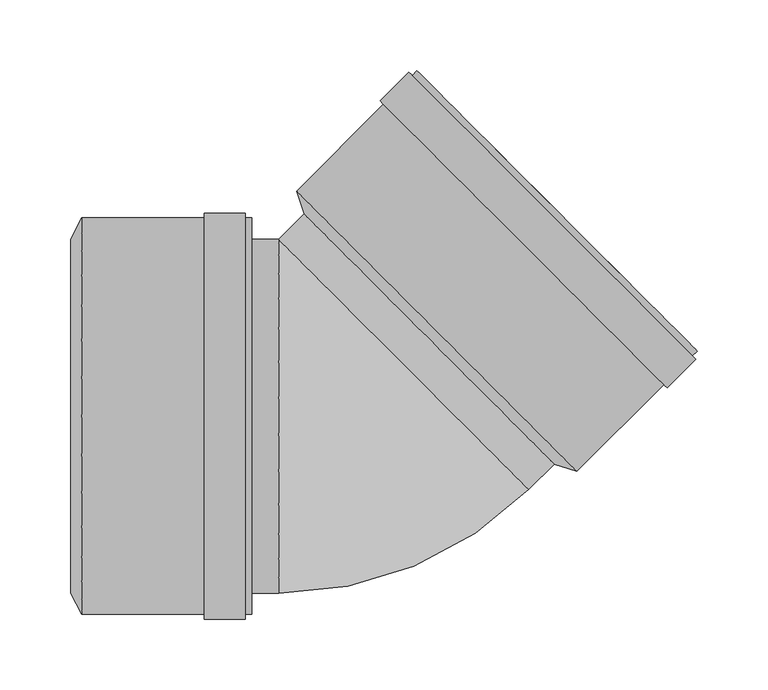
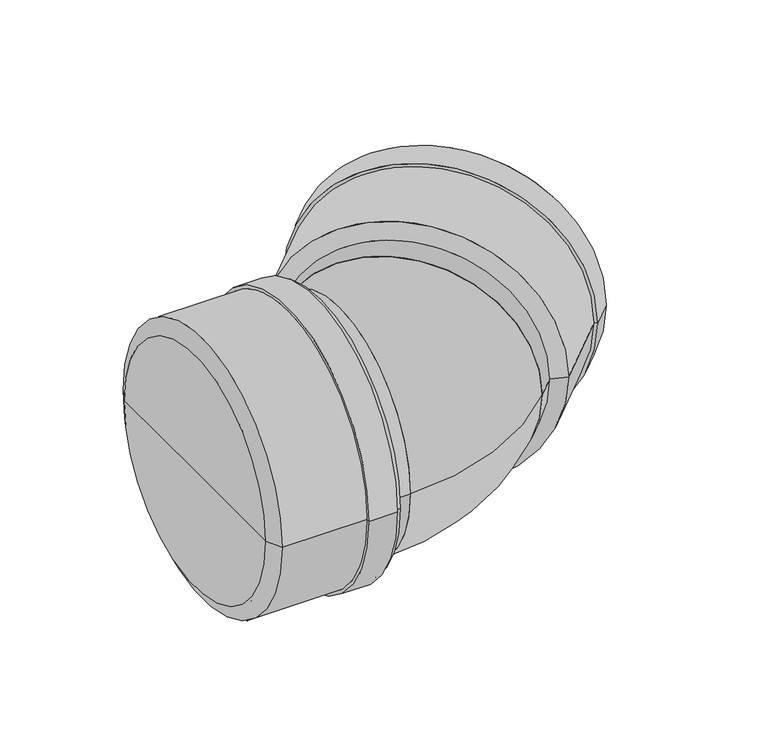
"""IFC4 building model written with IfcOpenShell, lengths in millimetres: pipe fitting geometry, pf_KGB : pf_KGB."""

from ifc_helpers import new_model, si_unit, point, frame, origin, origin_2d, place, context, project, spatial, polyline, circle_curve, ellipse_curve, trimmed, segment, composite_curve, outline, extrude, source, transform, mapped, element, save
from ifc_brep_helpers import plane_surface, cylinder_surface, revolved_surface, advanced_brep


def pipe_fitting_d790b651(model_context):
    return source(origin(), model_context, "Body", "SolidModel", [
        advanced_brep(
        [(142.9769912, -33.7997041, 0.0), (-33.7997041, 142.9769912, 0.0), (-39.0322943, 159.0990258, 0.0), (159.0990258, -39.0322943, 0.0), (54.5886435, 54.5886435, 0.0), (244.1639715, 46.0326515, 0.0), (46.0326515, 244.1639715, 0.0), (56.7099639, 233.4866591, 0.0), (233.4866591, 56.7099639, 0.0), (42.6385389, 240.769859, 0.0), (240.769859, 42.6385389, 0.0), (40.2343758, 243.1740221, 0.0), (243.1740221, 40.2343758, 0.0), (19.9404112, 222.8800574, 0.0), (222.8800574, 19.9404112, 0.0), (22.3445743, 220.4758944, 0.0), (220.4758944, 22.3445743, 0.0), (148.4217134, -28.3549819, 0.0), (-28.3549819, 148.4217134, 0.0), (60.0333657, 60.0333657, 0.0)],
        [
            (0, 1, circle_curve(frame((54.5886435, 54.5886435, 0.0), z_axis=(0.7071067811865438, 0.7071067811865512, 0.0), x_axis=(-0.7071067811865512, 0.7071067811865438, 0.0)), 125.0)),
            (1, 2),
            (2, 3, circle_curve(frame((60.0333657, 60.0333657, 0.0), z_axis=(-0.7071067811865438, -0.7071067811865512, 0.0), x_axis=(-0.7071067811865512, 0.7071067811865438, 0.0)), 140.1)),
            (3, 0),
            (1, 0, circle_curve(frame((54.5886435, 54.5886435, 0.0), z_axis=(0.7071067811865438, 0.7071067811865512, 0.0), x_axis=(-0.7071067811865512, 0.7071067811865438, 0.0)), 125.0)),
            (3, 2, circle_curve(frame((60.0333657, 60.0333657, 0.0), z_axis=(-0.7071067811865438, -0.7071067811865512, 0.0), x_axis=(-0.7071067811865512, 0.7071067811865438, 0.0)), 140.1)),
            (4, 1),
            (0, 4),
            (5, 6, circle_curve(frame((145.0983115, 145.0983115, 0.0), z_axis=(0.7071067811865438, 0.7071067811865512, 0.0), x_axis=(-0.7071067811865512, 0.7071067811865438, 0.0)), 140.1)),
            (6, 7),
            (7, 8, circle_curve(frame((145.0983115, 145.0983115, 0.0), z_axis=(-0.7071067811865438, -0.7071067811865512, 0.0), x_axis=(-0.7071067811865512, 0.7071067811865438, 0.0)), 125.0)),
            (8, 5),
            (9, 10, circle_curve(frame((141.7041989, 141.7041989, 0.0), z_axis=(0.7071067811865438, 0.7071067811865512, 0.0), x_axis=(-0.7071067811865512, 0.7071067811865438, 0.0)), 140.1)),
            (10, 5),
            (5, 6, circle_curve(frame((145.0983115, 145.0983115, 0.0), z_axis=(-0.7071067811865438, -0.7071067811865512, 0.0), x_axis=(-0.7071067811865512, 0.7071067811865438, 0.0)), 140.1)),
            (6, 9),
            (11, 12, circle_curve(frame((141.7041989, 141.7041989, 0.0), z_axis=(0.7071067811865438, 0.7071067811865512, 0.0), x_axis=(-0.7071067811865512, 0.7071067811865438, 0.0)), 143.5)),
            (12, 10),
            (9, 11),
            (13, 14, circle_curve(frame((121.4102343, 121.4102343, 0.0), z_axis=(0.7071067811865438, 0.7071067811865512, 0.0), x_axis=(-0.7071067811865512, 0.7071067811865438, 0.0)), 143.5)),
            (14, 12),
            (11, 13),
            (15, 16, circle_curve(frame((121.4102343, 121.4102343, 0.0), z_axis=(0.7071067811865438, 0.7071067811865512, 0.0), x_axis=(-0.7071067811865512, 0.7071067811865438, 0.0)), 140.1)),
            (16, 14),
            (13, 15),
            (8, 7, circle_curve(frame((145.0983115, 145.0983115, 0.0), z_axis=(-0.7071067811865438, -0.7071067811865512, 0.0), x_axis=(-0.7071067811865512, 0.7071067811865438, 0.0)), 125.0)),
            (10, 9, circle_curve(frame((141.7041989, 141.7041989, 0.0), z_axis=(0.7071067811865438, 0.7071067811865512, 0.0), x_axis=(-0.7071067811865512, 0.7071067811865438, 0.0)), 140.1)),
            (12, 11, circle_curve(frame((141.7041989, 141.7041989, 0.0), z_axis=(0.7071067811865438, 0.7071067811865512, 0.0), x_axis=(-0.7071067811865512, 0.7071067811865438, 0.0)), 143.5)),
            (14, 13, circle_curve(frame((121.4102343, 121.4102343, 0.0), z_axis=(0.7071067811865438, 0.7071067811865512, 0.0), x_axis=(-0.7071067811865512, 0.7071067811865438, 0.0)), 143.5)),
            (16, 15, circle_curve(frame((121.4102343, 121.4102343, 0.0), z_axis=(0.7071067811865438, 0.7071067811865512, 0.0), x_axis=(-0.7071067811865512, 0.7071067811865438, 0.0)), 140.1)),
            (2, 15),
            (16, 3),
            (17, 18, circle_curve(frame((60.0333657, 60.0333657, 0.0), z_axis=(0.7071067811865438, 0.7071067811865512, 0.0), x_axis=(-0.7071067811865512, 0.7071067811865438, 0.0)), 125.0)),
            (18, 19),
            (19, 17),
            (18, 17, circle_curve(frame((60.0333657, 60.0333657, 0.0), z_axis=(0.7071067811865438, 0.7071067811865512, 0.0), x_axis=(-0.7071067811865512, 0.7071067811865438, 0.0)), 125.0)),
            (7, 18),
            (17, 8),
        ],
        [
            revolved_surface(polyline([(-39.0322943, 159.0990258, 0.0), (-33.7997041, 142.9769912, 0.0)]), (54.5886435, 54.5886435, 0.0), (-0.7071067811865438, -0.7071067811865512, 0.0)),
            plane_surface(frame((54.5886435, 54.5886435, 0.0), z_axis=(-0.7071067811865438, -0.7071067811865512, 0.0), x_axis=(-0.7071067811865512, 0.7071067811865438, 0.0))),
            plane_surface(frame((145.0983115, 145.0983115, 0.0), z_axis=(0.7071067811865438, 0.7071067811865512, 0.0), x_axis=(-0.7071067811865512, 0.7071067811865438, 0.0))),
            cylinder_surface(frame((54.5886435, 54.5886435, 0.0), z_axis=(-0.7071067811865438, -0.7071067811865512, 0.0), x_axis=(-0.7071067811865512, 0.7071067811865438, 0.0)), 140.1),
            plane_surface(frame((141.7041989, 141.7041989, 0.0), z_axis=(0.7071067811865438, 0.7071067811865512, 0.0), x_axis=(-0.7071067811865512, 0.7071067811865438, 0.0))),
            cylinder_surface(frame((54.5886435, 54.5886435, 0.0), z_axis=(-0.7071067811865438, -0.7071067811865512, 0.0), x_axis=(-0.7071067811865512, 0.7071067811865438, 0.0)), 143.5),
            plane_surface(frame((121.4102343, 121.4102343, 0.0), z_axis=(-0.7071067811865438, -0.7071067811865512, 0.0), x_axis=(-0.7071067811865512, 0.7071067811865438, 0.0))),
            plane_surface(frame((60.0333657, 60.0333657, 0.0), z_axis=(0.7071067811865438, 0.7071067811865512, 0.0), x_axis=(-0.7071067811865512, 0.7071067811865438, 0.0))),
            revolved_surface(polyline([(-28.35498194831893, 148.421713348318, 0.0), (56.70996385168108, 233.4866591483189, 0.0)]), (54.5886435, 54.5886435, 0.0), (-0.7071067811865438, -0.7071067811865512, 0.0)),
        ],
        [
            (0, [[1, 2, 3, 4]]),
            (0, [[5, -4, 6, -2]]),
            (1, [[7, -1, 8]]),
            (1, [[-8, -5, -7]]),
            (2, [[9, 10, 11, 12]]),
            (3, [[13, 14, 15, 16]]),
            (4, [[17, 18, -13, 19]]),
            (5, [[20, 21, -17, 22]]),
            (6, [[23, 24, -20, 25]]),
            (2, [[-15, -12, 26, -10]]),
            (3, [[27, -16, -9, -14]]),
            (4, [[28, -19, -27, -18]]),
            (5, [[29, -22, -28, -21]]),
            (6, [[30, -25, -29, -24]]),
            (3, [[-3, 31, -30, 32]]),
            (3, [[-6, -32, -23, -31]]),
            (7, [[33, 34, 35]]),
            (7, [[36, -35, -34]]),
            (8, [[-11, 37, -33, 38]]),
            (8, [[-26, -38, -36, -37]]),
        ],
    ),
        advanced_brep(
        [(-198.7, -125.0, 0.0), (-198.7, 125.0, 0.0), (-191.0, 140.1, 0.0), (-191.0, -140.1, 0.0), (-198.7, 0.0, 0.0), (-70.7, -140.1, 0.0), (-70.7, 140.1, 0.0), (-70.7, 125.0, 0.0), (-70.7, -125.0, 0.0), (-75.5, 140.1, 0.0), (-75.5, -140.1, 0.0), (-75.5, 143.5, 0.0), (-75.5, -143.5, 0.0), (-104.2, 143.5, 0.0), (-104.2, -143.5, 0.0), (-104.2, 140.1, 0.0), (-104.2, -140.1, 0.0), (-191.0, -125.0, 0.0), (-191.0, 125.0, 0.0), (-191.0, 0.0, 0.0)],
        [
            (0, 1, circle_curve(frame((-198.7, 0.0, 0.0), z_axis=(1.0, 0.0, 0.0), x_axis=(0.0, 1.0, 0.0)), 125.0)),
            (1, 2),
            (2, 3, circle_curve(frame((-191.0, 0.0, 0.0), z_axis=(-1.0, 0.0, 0.0), x_axis=(0.0, 1.0, 0.0)), 140.1)),
            (3, 0),
            (1, 0, circle_curve(frame((-198.7, 0.0, 0.0), z_axis=(1.0, 0.0, 0.0), x_axis=(0.0, 1.0, 0.0)), 125.0)),
            (3, 2, circle_curve(frame((-191.0, 0.0, 0.0), z_axis=(-1.0, 0.0, 0.0), x_axis=(0.0, 1.0, 0.0)), 140.1)),
            (4, 1),
            (0, 4),
            (5, 6, circle_curve(frame((-70.7, 0.0, 0.0), z_axis=(1.0, 0.0, 0.0), x_axis=(0.0, 1.0, 0.0)), 140.1)),
            (6, 7),
            (7, 8, circle_curve(frame((-70.7, 0.0, 0.0), z_axis=(-1.0, 0.0, 0.0), x_axis=(0.0, 1.0, 0.0)), 125.0)),
            (8, 5),
            (9, 10, circle_curve(frame((-75.5, 0.0, 0.0), z_axis=(1.0, 0.0, 0.0), x_axis=(0.0, 1.0, 0.0)), 140.1)),
            (10, 5),
            (5, 6, circle_curve(frame((-70.7, 0.0, 0.0), z_axis=(-1.0, 0.0, 0.0), x_axis=(0.0, 1.0, 0.0)), 140.1)),
            (6, 9),
            (11, 12, circle_curve(frame((-75.5, 0.0, 0.0), z_axis=(1.0, 0.0, 0.0), x_axis=(0.0, 1.0, 0.0)), 143.5)),
            (12, 10),
            (9, 11),
            (13, 14, circle_curve(frame((-104.2, 0.0, 0.0), z_axis=(1.0, 0.0, 0.0), x_axis=(0.0, 1.0, 0.0)), 143.5)),
            (14, 12),
            (11, 13),
            (15, 16, circle_curve(frame((-104.2, 0.0, 0.0), z_axis=(1.0, 0.0, 0.0), x_axis=(0.0, 1.0, 0.0)), 140.1)),
            (16, 14),
            (13, 15),
            (8, 7, circle_curve(frame((-70.7, 0.0, 0.0), z_axis=(-1.0, 0.0, 0.0), x_axis=(0.0, 1.0, 0.0)), 125.0)),
            (10, 9, circle_curve(frame((-75.5, 0.0, 0.0), z_axis=(1.0, 0.0, 0.0), x_axis=(0.0, 1.0, 0.0)), 140.1)),
            (12, 11, circle_curve(frame((-75.5, 0.0, 0.0), z_axis=(1.0, 0.0, 0.0), x_axis=(0.0, 1.0, 0.0)), 143.5)),
            (14, 13, circle_curve(frame((-104.2, 0.0, 0.0), z_axis=(1.0, 0.0, 0.0), x_axis=(0.0, 1.0, 0.0)), 143.5)),
            (16, 15, circle_curve(frame((-104.2, 0.0, 0.0), z_axis=(1.0, 0.0, 0.0), x_axis=(0.0, 1.0, 0.0)), 140.1)),
            (2, 15),
            (16, 3),
            (17, 18, circle_curve(frame((-191.0, 0.0, 0.0), z_axis=(1.0, 0.0, 0.0), x_axis=(0.0, 1.0, 0.0)), 125.0)),
            (18, 19),
            (19, 17),
            (18, 17, circle_curve(frame((-191.0, 0.0, 0.0), z_axis=(1.0, 0.0, 0.0), x_axis=(0.0, 1.0, 0.0)), 125.0)),
            (7, 18),
            (17, 8),
        ],
        [
            revolved_surface(polyline([(-191.0, 140.1, 0.0), (-198.7, 125.0, 0.0)]), (-198.7, 0.0, 0.0), (-1.0, 0.0, 0.0)),
            plane_surface(frame((-198.7, 0.0, 0.0), z_axis=(-1.0, 0.0, 0.0), x_axis=(0.0, 1.0, 0.0))),
            plane_surface(frame((-70.7, 0.0, 0.0), z_axis=(1.0, 0.0, 0.0), x_axis=(0.0, 1.0, 0.0))),
            cylinder_surface(frame((-198.7, 0.0, 0.0), z_axis=(-1.0, 0.0, 0.0), x_axis=(0.0, 1.0, 0.0)), 140.1),
            plane_surface(frame((-75.5, 0.0, 0.0), z_axis=(1.0, 0.0, 0.0), x_axis=(0.0, 1.0, 0.0))),
            cylinder_surface(frame((-198.7, 0.0, 0.0), z_axis=(-1.0, 0.0, 0.0), x_axis=(0.0, 1.0, 0.0)), 143.5),
            plane_surface(frame((-104.2, 0.0, 0.0), z_axis=(-1.0, 0.0, 0.0), x_axis=(0.0, 1.0, 0.0))),
            plane_surface(frame((-191.0, 0.0, 0.0), z_axis=(1.0, 0.0, 0.0), x_axis=(0.0, 1.0, 0.0))),
            revolved_surface(polyline([(-191.0, 125.0, 0.0), (-70.7, 125.0, 0.0)]), (-198.7, 0.0, 0.0), (-1.0, 0.0, 0.0)),
        ],
        [
            (0, [[1, 2, 3, 4]]),
            (0, [[5, -4, 6, -2]]),
            (1, [[7, -1, 8]]),
            (1, [[-8, -5, -7]]),
            (2, [[9, 10, 11, 12]]),
            (3, [[13, 14, 15, 16]]),
            (4, [[17, 18, -13, 19]]),
            (5, [[20, 21, -17, 22]]),
            (6, [[23, 24, -20, 25]]),
            (2, [[-15, -12, 26, -10]]),
            (3, [[27, -16, -9, -14]]),
            (4, [[28, -19, -27, -18]]),
            (5, [[29, -22, -28, -21]]),
            (6, [[30, -25, -29, -24]]),
            (3, [[-3, 31, -30, 32]]),
            (3, [[-6, -32, -23, -31]]),
            (7, [[33, 34, 35]]),
            (7, [[36, -35, -34]]),
            (8, [[-11, 37, -33, 38]]),
            (8, [[-26, -38, -36, -37]]),
        ],
    ),
        extrude(outline(composite_curve([segment(trimmed(circle_curve(origin_2d(), 125.0), [point((0.0, -125.0))], [point((0.0, 125.0))], False, "CARTESIAN"), True, "CONTINUOUS"), segment(trimmed(circle_curve(origin_2d(), 125.0), [point((0.0, 125.0))], [point((0.0, -125.0))], False, "CARTESIAN"), True, "CONTINUOUS")], self_intersect=False)), frame((36.6116524, 36.6116524, 0.0), z_axis=(0.7071067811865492, 0.7071067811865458, 0.0), x_axis=(0.0, 0.0, 1.0)), (0.0, 0.0, 1.0), 25.4233047),
        extrude(outline(composite_curve([segment(trimmed(circle_curve(origin_2d(), 125.0), [point((-125.0, 0.0))], [point((125.0, 0.0))], False, "CARTESIAN"), True, "CONTINUOUS"), segment(trimmed(circle_curve(origin_2d(), 125.0), [point((125.0, 0.0))], [point((-125.0, 0.0))], False, "CARTESIAN"), True, "CONTINUOUS")], self_intersect=False)), frame((-191.0, 0.0, 0.0), z_axis=(1.0, 0.0, 0.0), x_axis=(0.0, 1.0, 0.0)), (0.0, 0.0, 1.0), 139.2233047),
        advanced_brep(
        [(-51.7766953, -125.0, 0.0), (-51.7766953, 125.0, 0.0), (125.0, -51.7766953, 0.0)],
        [
            (0, 1, circle_curve(frame((-51.7766953, 0.0, 0.0), z_axis=(-1.0, 0.0, 0.0), x_axis=(0.0, 1.0, 0.0)), 125.0)),
            (1, 0, circle_curve(frame((-51.7766953, 0.0, 0.0), z_axis=(-1.0, 0.0, 0.0), x_axis=(0.0, 1.0, 0.0)), 125.0)),
            (2, 1, circle_curve(frame((36.6116524, 36.6116524, 0.0), z_axis=(0.7071067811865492, 0.7071067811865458, 0.0), x_axis=(-0.7071067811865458, 0.7071067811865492, 0.0)), 125.0)),
            (1, 2, circle_curve(frame((36.6116524, 36.6116524, 0.0), z_axis=(0.7071067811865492, 0.7071067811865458, 0.0), x_axis=(-0.7071067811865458, 0.7071067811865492, 0.0)), 125.0)),
            (2, 0, circle_curve(frame((-51.7766953, 125.0, 0.0), z_axis=(0.0, 0.0, -1.0), x_axis=(0.0, -1.0, 0.0)), 250.0)),
        ],
        [
            plane_surface(frame((-51.7766953, 125.0, -14.8), z_axis=(-1.0, 0.0, 0.0), x_axis=(0.0, -1.0, 0.0))),
            plane_surface(frame((-51.7766953, 125.0, -14.8), z_axis=(0.7071067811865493, 0.7071067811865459, 0.0), x_axis=(0.7071067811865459, -0.7071067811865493, 0.0))),
            revolved_surface(trimmed(ellipse_curve(frame((-51.7766953, 0.0, 0.0), z_axis=(1.0, 0.0, 0.0), x_axis=(0.0, 1.0, 0.0)), 125.0, 125.0), [point((-51.7766953, -125.0, 0.0))], [point((-51.7766953, 125.0, 0.0))], True, "CARTESIAN"), (-51.7766953, 125.0, -14.8), (0.0, 0.0, -1.0)),
            revolved_surface(trimmed(ellipse_curve(frame((-51.7766953, 0.0, 0.0), z_axis=(1.0, 0.0, 0.0), x_axis=(0.0, 1.0, 0.0)), 125.0, 125.0), [point((-51.7766953, 125.0, 0.0))], [point((-51.7766953, -125.0, 0.0))], True, "CARTESIAN"), (-51.7766953, 125.0, -14.8), (0.0, 0.0, -1.0)),
        ],
        [
            (0, [[1, 2]]),
            (1, [[3, 4]]),
            (2, [[5, -2, -3]]),
            (3, [[-1, -5, -4]]),
        ],
    ),
    ])


if __name__ == "__main__":
    model = new_model("IFC4")
    model_context = context("Model", 3, world=origin())
    ifc_project = project(units=[si_unit("LENGTHUNIT", "METRE", prefix="MILLI")], contexts=[model_context])
    site = spatial("IfcSite", under=ifc_project)
    building = spatial("IfcBuilding", under=site)
    placement = place(None, origin())
    pipe_fitting_shape = pipe_fitting_d790b651(model_context)
    element("IfcPipeFitting", 1, ObjectType="pf_KGB : pf_KGB", at=placement, inside=building, context=model_context, shape_type="MappedRepresentation", body=[
        mapped(pipe_fitting_shape, transform((0.0, 0.0, 0.0), x_axis=(1.0, 0.0, 0.0), y_axis=(0.0, 1.0, 0.0), z_axis=(0.0, 0.0, 1.0))),
    ])
    save(model, "model.ifc")
